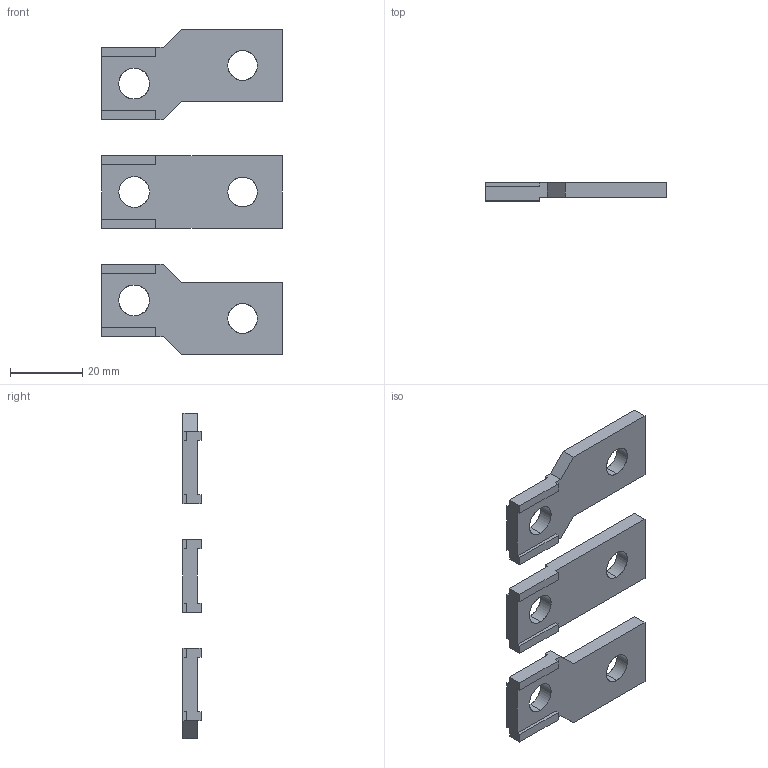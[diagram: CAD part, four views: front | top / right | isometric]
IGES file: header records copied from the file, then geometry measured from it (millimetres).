
Start section: SolidWorks IGES file using analytic representation for surfaces
Global section: file name: \\Brjgs100\DFSWEG\GROUPS\BR_SC_JGS_WA_TECNICO\ENG\Usuarios\Rodrigob\conversão\Disjuntor de Caixa Moldada\Produto\Acessorios ACW\BE ACW100...160\BE ACW100...160.IGS; native system: SolidWorks 2018; preprocessor: SolidWorks 2018; author: rodrigob; date: 211110.093254; units: millimetre
Bounding box: 50 x 5 x 90 mm (x, y, z)
Surface area: 7895.4 mm2 (no closed solid volume)
Topology: 0 solids, 0 shells, 74 faces, 768 edges, 768 vertices
Faces by surface type: bspline 62, revolution 12
